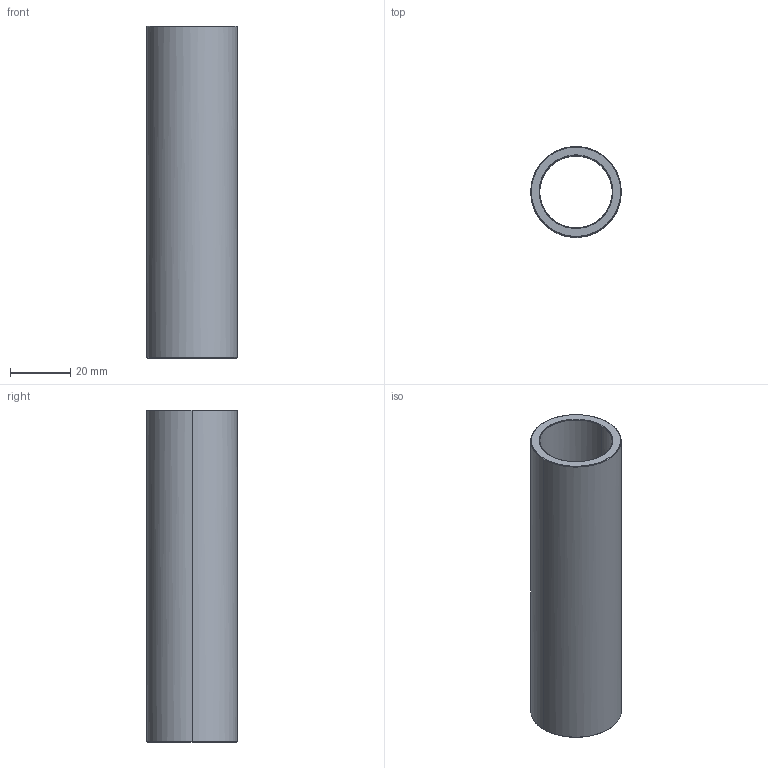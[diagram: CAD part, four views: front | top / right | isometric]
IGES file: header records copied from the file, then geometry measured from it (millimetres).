
Start section: Write IGES format                                    datakit 2008 (c)
Global section: file name: Unknown; native system: DATAKIT Converter; preprocessor: Unknown; author: Unknown; organization: Unknown; date: 950613.180003; units: millimetre
Bounding box: 30 x 29.98 x 110 mm (x, y, z)
Surface area: 19130.2 mm2 (no closed solid volume)
Topology: 0 solids, 0 shells, 14 faces, 56 edges, 56 vertices
Faces by surface type: revolution 12, bspline 2
